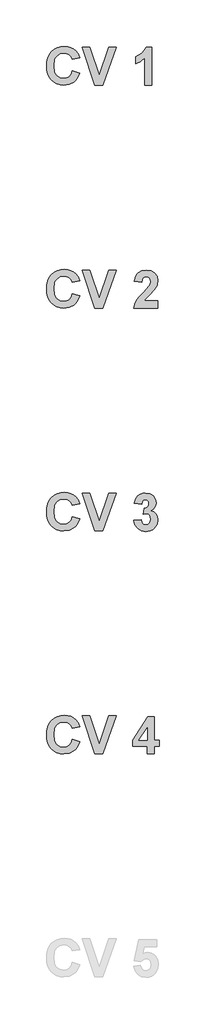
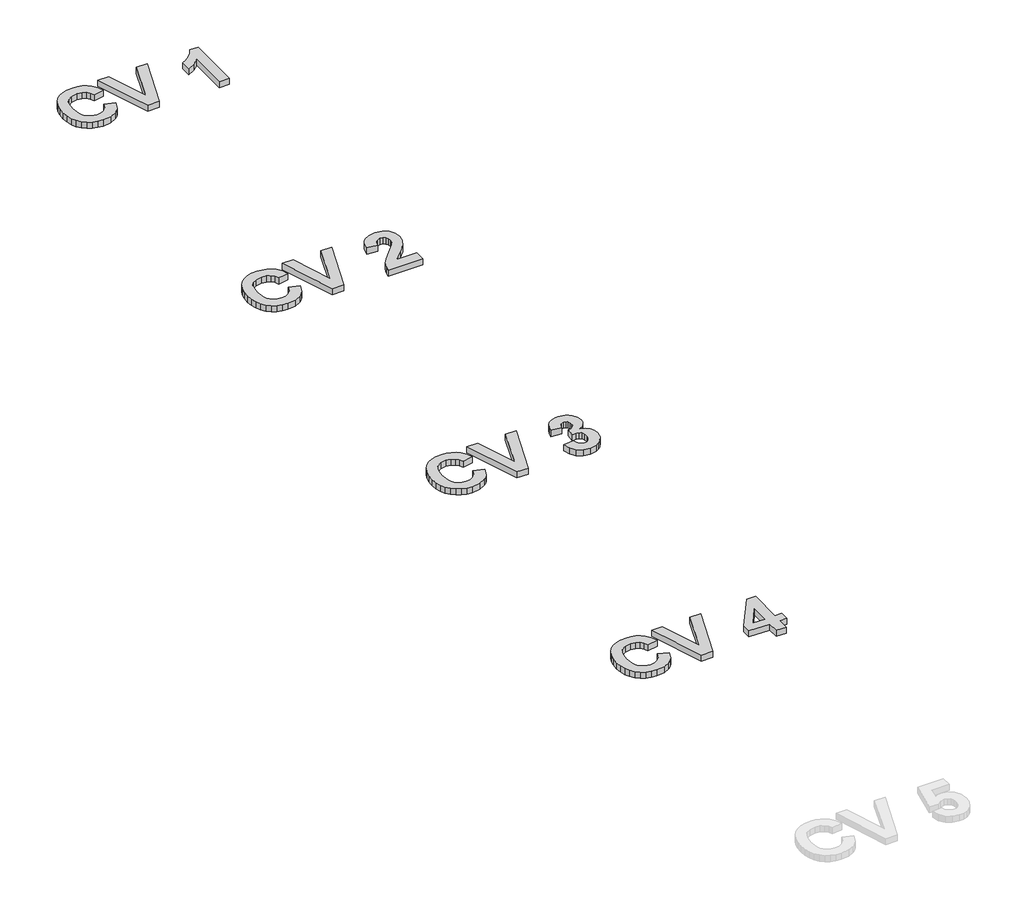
# One storey, part 9 of 9: 4 proxies.
"""IFC4 building model written with IfcOpenShell, lengths in millimetres."""

from ifc_helpers import new_model, si_unit, origin, origin_with_axes, place, context, project, spatial, polyline, outline, extrude, element, save

model = new_model("IFC4")

# Units and contexts
model_context = context("Model", 3, world=origin())
ifc_project = project(units=[si_unit("LENGTHUNIT", "METRE", prefix="MILLI")], contexts=[model_context])

# Site, building, storey
site = spatial("IfcSite", under=ifc_project)
building = spatial("IfcBuilding", under=site)
storey = spatial("IfcBuildingStorey", under=building, Name="Этаж 01", Elevation=0.0)

# Proxies
placement = place(None, origin())
element("IfcBuildingElementProxy", 1, Name="Wellmix_Надпись1", ObjectType="Wellmix_Надпись1", at=placement, inside=storey, context=model_context, shape_type="SweptSolid", body=[
    extrude(outline(polyline([(24277.5138433, 10493.3613491), (24326.0976243, 10477.1667554), (24310.7728574, 10441.3852436), (24300.2519068, 10427.4502227), (24287.8252448, 10416.1523586), (24257.4603817, 10401.18343), (24219.8838636, 10396.1937872), (24195.5563893, 10398.3248628), (24173.4983722, 10404.7180899), (24153.7098123, 10415.3734683), (24136.1907097, 10430.290998), (24121.8543824, 10448.9052917), (24111.6141486, 10470.6509619), (24105.4700083, 10495.5280086), (24103.4219616, 10523.5364318), (24105.4878003, 10553.0710056), (24111.6853163, 10579.1104572), (24122.0145096, 10601.6547866), (24136.4753803, 10620.7039937), (24154.3048529, 10635.8429339), (24174.7398523, 10646.6564626), (24197.7803783, 10653.1445798), (24223.4264309, 10655.3072856), (24245.8521475, 10653.5241406), (24266.0637595, 10648.1747057), (24284.0612669, 10639.258981), (24299.8446697, 10626.7769663), (24315.1694366, 10606.2648687), (24326.0976243, 10578.3829657), (24277.5138433, 10570.2856689), (24270.0728704, 10587.0891413), (24257.3654915, 10599.9230405), (24240.3722387, 10608.0598749), (24220.073644, 10610.772153), (24192.6266544, 10605.8457703), (24170.8888918, 10591.0666221), (24162.627514, 10579.6896828), (24156.7265298, 10565.264396), (24152.0057425, 10527.2687795), (24156.5841946, 10487.1934862), (24162.3072596, 10472.2087426), (24170.3195506, 10460.592601), (24191.3930819, 10445.69484), (24217.9860596, 10440.7289197), (24238.0632439, 10443.8998338), (24255.1513869, 10453.4125761), (24268.5388122, 10469.7415975), (24277.5138433, 10493.3613491)])), origin_with_axes(), (0.0, 0.0, 1.0), 30.0),
    extrude(outline(polyline([(24428.2627366, 10396.1937872), (24342.2922179, 10651.2586371), (24393.5329244, 10651.2586371), (24457.6786977, 10460.9721618), (24522.0142514, 10651.2586371), (24573.0651774, 10651.2586371), (24482.5399293, 10396.1937872), (24428.2627366, 10396.1937872)])), origin_with_axes(), (0.0, 0.0, 1.0), 30.0),
    extrude(outline(polyline([(24811.9354338, 10396.1937872), (24763.3516528, 10396.1937872), (24763.3516528, 10578.509486), (24735.2957845, 10554.6287864), (24702.6219266, 10537.8964816), (24702.6219266, 10586.4802625), (24722.0902321, 10595.5659989), (24743.1716709, 10610.297702), (24761.6278142, 10629.3152791), (24773.2202333, 10651.2586371), (24811.9354338, 10651.2586371), (24811.9354338, 10396.1937872)])), origin_with_axes(), (0.0, 0.0, 1.0), 30.0),
])
element("IfcBuildingElementProxy", 2, Name="Wellmix_Надпись1", ObjectType="Wellmix_Надпись1", at=placement, inside=storey, context=model_context, shape_type="SweptSolid", body=[
    extrude(outline(polyline([(24277.5138433, 8993.3613491), (24326.0976243, 8977.1667554), (24310.7728574, 8941.3852436), (24300.2519068, 8927.4502227), (24287.8252448, 8916.1523586), (24257.4603817, 8901.18343), (24219.8838636, 8896.1937872), (24195.5563893, 8898.3248628), (24173.4983722, 8904.7180899), (24153.7098123, 8915.3734683), (24136.1907097, 8930.290998), (24121.8543824, 8948.9052917), (24111.6141486, 8970.6509619), (24105.4700083, 8995.5280086), (24103.4219616, 9023.5364318), (24105.4878003, 9053.0710056), (24111.6853163, 9079.1104572), (24122.0145096, 9101.6547866), (24136.4753803, 9120.7039937), (24154.3048529, 9135.8429339), (24174.7398523, 9146.6564626), (24197.7803783, 9153.1445798), (24223.4264309, 9155.3072856), (24245.8521475, 9153.5241406), (24266.0637595, 9148.1747057), (24284.0612669, 9139.258981), (24299.8446697, 9126.7769663), (24315.1694366, 9106.2648687), (24326.0976243, 9078.3829657), (24277.5138433, 9070.2856689), (24270.0728704, 9087.0891413), (24257.3654915, 9099.9230405), (24240.3722387, 9108.0598749), (24220.073644, 9110.772153), (24192.6266544, 9105.8457703), (24170.8888918, 9091.0666221), (24162.627514, 9079.6896828), (24156.7265298, 9065.264396), (24152.0057425, 9027.2687795), (24156.5841946, 8987.1934862), (24162.3072596, 8972.2087426), (24170.3195506, 8960.592601), (24191.3930819, 8945.69484), (24217.9860596, 8940.7289197), (24238.0632439, 8943.8998338), (24255.1513869, 8953.4125761), (24268.5388122, 8969.7415975), (24277.5138433, 8993.3613491)])), origin_with_axes(), (0.0, 0.0, 1.0), 30.0),
    extrude(outline(polyline([(24428.2627366, 8896.1937872), (24342.2922179, 9151.2586371), (24393.5329244, 9151.2586371), (24457.6786977, 8960.9721618), (24522.0142514, 9151.2586371), (24573.0651774, 9151.2586371), (24482.5399293, 8896.1937872), (24428.2627366, 8896.1937872)])), origin_with_axes(), (0.0, 0.0, 1.0), 30.0),
    extrude(outline(polyline([(24852.4219179, 8944.7775681), (24852.4219179, 8896.1937872), (24690.4759814, 8896.1937872), (24695.6474972, 8920.6991806), (24705.9747136, 8943.8602962), (24725.1583485, 8970.0420831), (24756.8991194, 9003.6094904), (24794.4756375, 9044.349015), (24801.4975121, 9059.0569956), (24803.838137, 9073.5751957), (24801.8691654, 9087.7217426), (24795.9622506, 9098.1517568), (24786.5918436, 9104.5805677), (24774.2323954, 9106.7235046), (24761.9599299, 9104.6121977), (24752.4709102, 9098.2782771), (24746.0816369, 9087.0575112), (24743.1084108, 9070.2856689), (24694.5246298, 9074.7138781), (24703.1280077, 9109.8627886), (24710.7508535, 9123.101948), (24720.587804, 9133.4509101), (24745.2118101, 9146.8067054), (24775.3078177, 9151.2586371), (24807.4439644, 9146.2689943), (24831.8623752, 9131.3000657), (24847.2820322, 9108.9138867), (24852.4219179, 9081.6724926), (24846.7917662, 9049.5363458), (24828.9524091, 9017.5899794), (24798.7456964, 8985.7068732), (24771.0061287, 8958.0621957), (24761.8966698, 8944.7775681), (24852.4219179, 8944.7775681)])), origin_with_axes(), (0.0, 0.0, 1.0), 30.0),
])
element("IfcBuildingElementProxy", 3, Name="Wellmix_Надпись1", ObjectType="Wellmix_Надпись1", at=placement, inside=storey, context=model_context, shape_type="SweptSolid", body=[
    extrude(outline(polyline([(24277.5138433, 7493.3613491), (24326.0976243, 7477.1667554), (24310.7728574, 7441.3852436), (24300.2519068, 7427.4502227), (24287.8252448, 7416.1523586), (24257.4603817, 7401.18343), (24219.8838636, 7396.1937872), (24195.5563893, 7398.3248628), (24173.4983722, 7404.7180899), (24153.7098123, 7415.3734683), (24136.1907097, 7430.290998), (24121.8543824, 7448.9052917), (24111.6141486, 7470.6509619), (24105.4700083, 7495.5280086), (24103.4219616, 7523.5364318), (24105.4878003, 7553.0710056), (24111.6853163, 7579.1104572), (24122.0145096, 7601.6547866), (24136.4753803, 7620.7039937), (24154.3048529, 7635.8429339), (24174.7398523, 7646.6564626), (24197.7803783, 7653.1445798), (24223.4264309, 7655.3072856), (24245.8521475, 7653.5241406), (24266.0637595, 7648.1747057), (24284.0612669, 7639.258981), (24299.8446697, 7626.7769663), (24315.1694366, 7606.2648687), (24326.0976243, 7578.3829657), (24277.5138433, 7570.2856689), (24270.0728704, 7587.0891413), (24257.3654915, 7599.9230405), (24240.3722387, 7608.0598749), (24220.073644, 7610.772153), (24192.6266544, 7605.8457703), (24170.8888918, 7591.0666221), (24162.627514, 7579.6896828), (24156.7265298, 7565.264396), (24152.0057425, 7527.2687795), (24156.5841946, 7487.1934862), (24162.3072596, 7472.2087426), (24170.3195506, 7460.592601), (24191.3930819, 7445.69484), (24217.9860596, 7440.7289197), (24238.0632439, 7443.8998338), (24255.1513869, 7453.4125761), (24268.5388122, 7469.7415975), (24277.5138433, 7493.3613491)])), origin_with_axes(), (0.0, 0.0, 1.0), 30.0),
    extrude(outline(polyline([(24428.2627366, 7396.1937872), (24342.2922179, 7651.2586371), (24393.5329244, 7651.2586371), (24457.6786977, 7460.9721618), (24522.0142514, 7651.2586371), (24573.0651774, 7651.2586371), (24482.5399293, 7396.1937872), (24428.2627366, 7396.1937872)])), origin_with_axes(), (0.0, 0.0, 1.0), 30.0),
    extrude(outline(polyline([(24690.4759814, 7467.4879553), (24739.0597624, 7473.118107), (24742.8079251, 7457.4928545), (24750.0037651, 7446.0427707), (24759.8565306, 7439.0208961), (24771.5754699, 7436.6802713), (24784.148421, 7439.3609194), (24794.5388976, 7447.4028636), (24801.5133271, 7459.9837222), (24803.838137, 7476.2811136), (24801.711015, 7491.7007706), (24795.3296493, 7503.5462302), (24785.8801671, 7511.0900009), (24774.5486961, 7513.6045911), (24755.254356, 7509.9987636), (24759.4927848, 7550.0424268), (24773.3230311, 7551.7820804), (24783.4367446, 7558.0132034), (24789.6283299, 7567.8817839), (24791.6921917, 7580.5338102), (24790.150226, 7591.280125), (24785.5243289, 7599.6067398), (24778.3363965, 7604.9443134), (24769.1083248, 7606.7235046), (24759.7221028, 7604.6596428), (24751.8066788, 7598.4680575), (24746.0420994, 7588.3068988), (24743.1084108, 7574.3343173), (24694.5246298, 7581.6092324), (24700.0836139, 7603.3469951), (24707.9041476, 7620.2295427), (24718.6267399, 7633.142517), (24732.8918995, 7642.9715599), (24749.8851523, 7649.1868678), (24768.7920241, 7651.2586371), (24799.4415578, 7645.5177802), (24812.2280119, 7638.3417091), (24823.3222574, 7628.2952094), (24836.0375439, 7608.2733778), (24840.2759727, 7585.7844011), (24838.0025617, 7569.8388942), (24831.1823288, 7555.5935034), (24819.8152739, 7543.0482286), (24803.9013971, 7532.2030698), (24823.7650784, 7524.6513916), (24839.2005504, 7511.3588565), (24849.116576, 7493.4957768), (24852.4219179, 7472.2324652), (24846.5624482, 7441.4643187), (24828.9840392, 7415.5830174), (24816.5474927, 7405.3289455), (24802.675732, 7398.0046084), (24770.6265679, 7392.1451387), (24740.3645026, 7397.3561921), (24715.7484039, 7412.9893521), (24698.5337406, 7437.0361095), (24690.4759814, 7467.4879553)])), origin_with_axes(), (0.0, 0.0, 1.0), 30.0),
])
element("IfcBuildingElementProxy", 4, Name="Wellmix_Надпись1", ObjectType="Wellmix_Надпись1", at=placement, inside=storey, context=model_context, shape_type="SweptSolid", body=[
    extrude(outline(polyline([(24277.5138433, 5993.3613491), (24326.0976243, 5977.1667554), (24310.7728574, 5941.3852436), (24300.2519068, 5927.4502227), (24287.8252448, 5916.1523586), (24257.4603817, 5901.18343), (24219.8838636, 5896.1937872), (24195.5563893, 5898.3248628), (24173.4983722, 5904.7180899), (24153.7098123, 5915.3734683), (24136.1907097, 5930.290998), (24121.8543824, 5948.9052917), (24111.6141486, 5970.6509619), (24105.4700083, 5995.5280086), (24103.4219616, 6023.5364318), (24105.4878003, 6053.0710056), (24111.6853163, 6079.1104572), (24122.0145096, 6101.6547866), (24136.4753803, 6120.7039937), (24154.3048529, 6135.8429339), (24174.7398523, 6146.6564626), (24197.7803783, 6153.1445798), (24223.4264309, 6155.3072856), (24245.8521475, 6153.5241406), (24266.0637595, 6148.1747057), (24284.0612669, 6139.258981), (24299.8446697, 6126.7769663), (24315.1694366, 6106.2648687), (24326.0976243, 6078.3829657), (24277.5138433, 6070.2856689), (24270.0728704, 6087.0891413), (24257.3654915, 6099.9230405), (24240.3722387, 6108.0598749), (24220.073644, 6110.772153), (24192.6266544, 6105.8457703), (24170.8888918, 6091.0666221), (24162.627514, 6079.6896828), (24156.7265298, 6065.264396), (24152.0057425, 6027.2687795), (24156.5841946, 5987.1934862), (24162.3072596, 5972.2087426), (24170.3195506, 5960.592601), (24191.3930819, 5945.69484), (24217.9860596, 5940.7289197), (24238.0632439, 5943.8998338), (24255.1513869, 5953.4125761), (24268.5388122, 5969.7415975), (24277.5138433, 5993.3613491)])), origin_with_axes(), (0.0, 0.0, 1.0), 30.0),
    extrude(outline(polyline([(24428.2627366, 5896.1937872), (24342.2922179, 6151.2586371), (24393.5329244, 6151.2586371), (24457.6786977, 5960.9721618), (24522.0142514, 6151.2586371), (24573.0651774, 6151.2586371), (24482.5399293, 5896.1937872), (24428.2627366, 5896.1937872)])), origin_with_axes(), (0.0, 0.0, 1.0), 30.0),
    extrude(outline(polyline([(24779.5462465, 5896.1937872), (24779.5462465, 5948.8262165), (24682.3786846, 5948.8262165), (24682.3786846, 5989.1229203), (24785.9987799, 6147.2099887), (24828.1300274, 6147.2099887), (24828.1300274, 5989.3127006), (24860.5192147, 5989.3127006), (24860.5192147, 5948.8262165), (24828.1300274, 5948.8262165), (24828.1300274, 5896.1937872), (24779.5462465, 5896.1937872)]), holes=[polyline([(24779.5462465, 5989.3127006), (24779.5462465, 6072.1834728), (24725.2690537, 5989.3127006), (24779.5462465, 5989.3127006)])]), origin_with_axes(), (0.0, 0.0, 1.0), 30.0),
])

save(model, "model.ifc")
